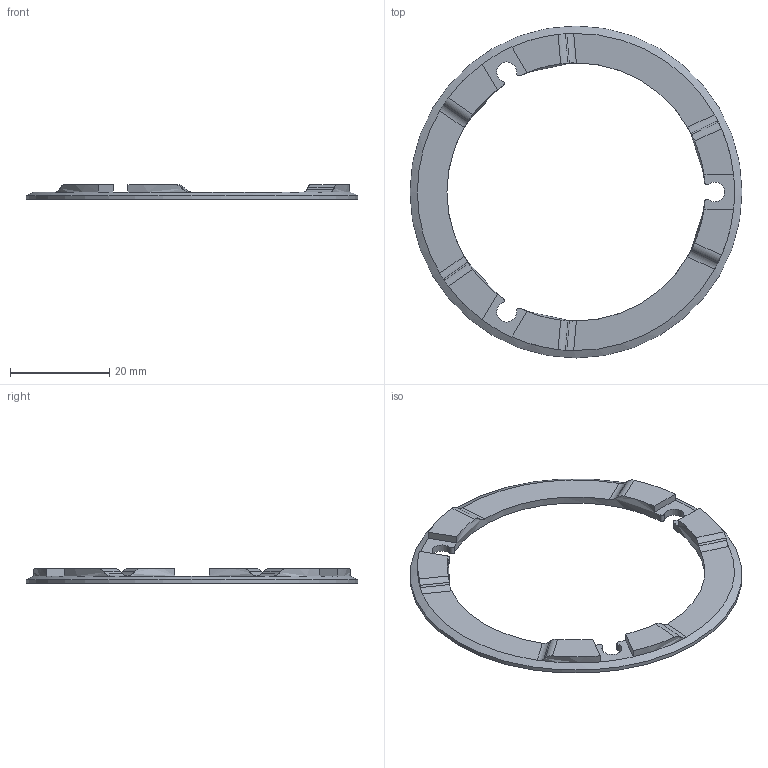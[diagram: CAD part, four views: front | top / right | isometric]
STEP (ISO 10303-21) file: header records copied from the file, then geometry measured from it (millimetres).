
FILE_DESCRIPTION(/* description */ ('CAx-IF Rec.Pracs.---Representation and Presentation of Product Manufacturing Information (PMI)---4.0---2014-10-13','CAx-IF Rec.Pracs.---3D Tessellated Geometry---0.4---2014-09-14','2;1'),/* implementation_level */ '2;1');
FILE_NAME(/* name */ 'qc1_p62',/* time_stamp */ '2026-07-26T03:23:09+03:00',/* author */ (''),/* organization */ (''),/* preprocessor_version */ 'ST-DEVELOPER v19.4',/* originating_system */ 'SIEMENS PLM Software NX2306.1700',/* authorisation */ $);
FILE_SCHEMA (('AP242_MANAGED_MODEL_BASED_3D_ENGINEERING_MIM_LF { 1 0 10303 442 3 1 4 }'));
Length unit declared in the file: millimetre
Products named in the file (1): qc1_p62
Bounding box: 67 x 67 x 3 mm (x, y, z)
Volume: 2447.7 mm3; surface area: 3429.5 mm2
Topology: 1 solids, 1 shells, 57 faces, 155 edges, 99 vertices
Faces by surface type: cylinder 31, plane 25, cone 1
Full cylindrical faces by diameter (mm): 67 x1
Entity records: 1844 total; most frequent: CARTESIAN_POINT 380, DIRECTION 312, ORIENTED_EDGE 304, EDGE_CURVE 152, AXIS2_PLACEMENT_3D 126, VERTEX_POINT 98, LINE 60, VECTOR 60
